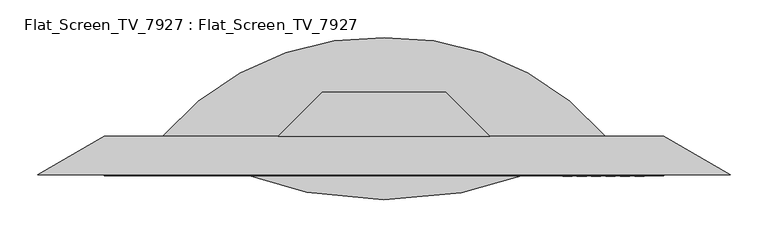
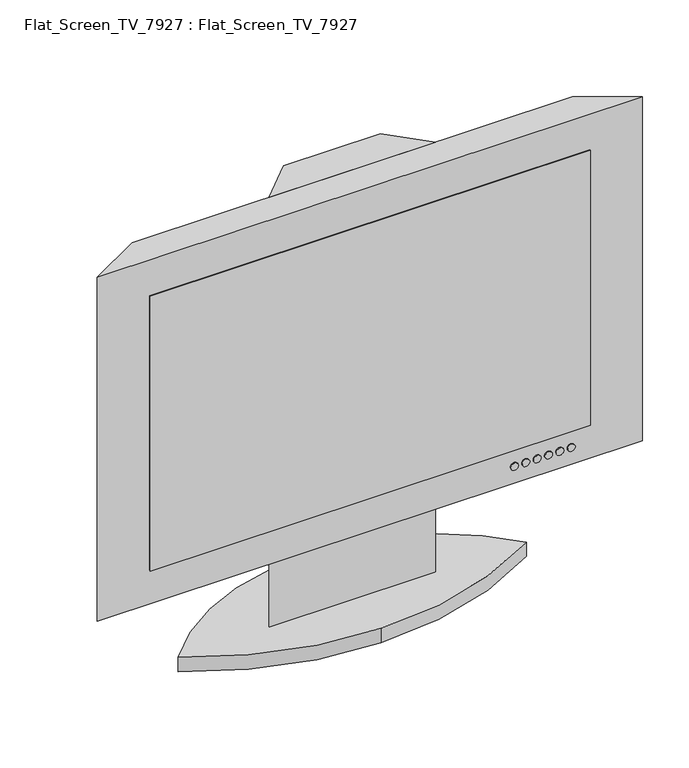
"""IFC4 building model written with IfcOpenShell, lengths in millimetres: proxy geometry, Flat_Screen_TV_7927 : Flat_Screen_TV_7927."""

from ifc_helpers import new_model, si_unit, point, frame, frame_2d, origin, origin_with_axes, place, context, project, spatial, polyline, circle_curve, trimmed, segment, composite_curve, outline, extrude, source, transform, mapped, element, save


def flat_screen_tv_7927_flat_screen_tv_7927_052adb82(model_context):
    return source(origin(), model_context, "Body", "SweptSolid", [
        extrude(outline(polyline([(59.5231777, 369.211819), (546.3883652, 369.211819), (546.3883652, -369.211819), (59.5231777, -369.211819), (59.5231777, 0.0), (59.5231777, 369.211819)])), frame((0.0, -1.5875, 0.0), z_axis=(0.0, 1.0, 0.0), x_axis=(0.0, 0.0, 1.0)), (0.0, 0.0, 1.0), 1.5875),
        extrude(outline(composite_curve([segment(trimmed(circle_curve(frame_2d((30.636959, 337.393326)), 6.35), [point((30.636959, 331.043326))], [point((30.636959, 343.743326))], False, "CARTESIAN"), True, "CONTINUOUS"), segment(trimmed(circle_curve(frame_2d((30.636959, 337.393326)), 6.35), [point((30.636959, 343.743326))], [point((30.636959, 331.043326))], False, "CARTESIAN"), True, "CONTINUOUS")], self_intersect=False)), frame((0.0, -1.5875, 0.0), z_axis=(0.0, 1.0, 0.0), x_axis=(0.0, 0.0, 1.0)), (0.0, 0.0, 1.0), 1.5875),
        extrude(outline(composite_curve([segment(trimmed(circle_curve(frame_2d((30.636959, 318.343326)), 6.35), [point((30.636959, 311.993326))], [point((30.636959, 324.693326))], False, "CARTESIAN"), True, "CONTINUOUS"), segment(trimmed(circle_curve(frame_2d((30.636959, 318.343326)), 6.35), [point((30.636959, 324.693326))], [point((30.636959, 311.993326))], False, "CARTESIAN"), True, "CONTINUOUS")], self_intersect=False)), frame((0.0, -1.5875, 0.0), z_axis=(0.0, 1.0, 0.0), x_axis=(0.0, 0.0, 1.0)), (0.0, 0.0, 1.0), 1.5875),
        extrude(outline(composite_curve([segment(trimmed(circle_curve(frame_2d((30.636959, 299.293326)), 6.35), [point((30.636959, 292.943326))], [point((30.636959, 305.643326))], False, "CARTESIAN"), True, "CONTINUOUS"), segment(trimmed(circle_curve(frame_2d((30.636959, 299.293326)), 6.35), [point((30.636959, 305.643326))], [point((30.636959, 292.943326))], False, "CARTESIAN"), True, "CONTINUOUS")], self_intersect=False)), frame((0.0, -1.5875, 0.0), z_axis=(0.0, 1.0, 0.0), x_axis=(0.0, 0.0, 1.0)), (0.0, 0.0, 1.0), 1.5875),
        extrude(outline(composite_curve([segment(trimmed(circle_curve(frame_2d((30.636959, 280.243326)), 6.35), [point((30.636959, 273.893326))], [point((30.636959, 286.593326))], False, "CARTESIAN"), True, "CONTINUOUS"), segment(trimmed(circle_curve(frame_2d((30.636959, 280.243326)), 6.35), [point((30.636959, 286.593326))], [point((30.636959, 273.893326))], False, "CARTESIAN"), True, "CONTINUOUS")], self_intersect=False)), frame((0.0, -1.5875, 0.0), z_axis=(0.0, 1.0, 0.0), x_axis=(0.0, 0.0, 1.0)), (0.0, 0.0, 1.0), 1.5875),
        extrude(outline(composite_curve([segment(trimmed(circle_curve(frame_2d((30.636959, 261.193326)), 6.35), [point((30.636959, 254.843326))], [point((30.636959, 267.543326))], False, "CARTESIAN"), True, "CONTINUOUS"), segment(trimmed(circle_curve(frame_2d((30.636959, 261.193326)), 6.35), [point((30.636959, 267.543326))], [point((30.636959, 254.843326))], False, "CARTESIAN"), True, "CONTINUOUS")], self_intersect=False)), frame((0.0, -1.5875, 0.0), z_axis=(0.0, 1.0, 0.0), x_axis=(0.0, 0.0, 1.0)), (0.0, 0.0, 1.0), 1.5875),
        extrude(outline(composite_curve([segment(trimmed(circle_curve(frame_2d((30.636959, 242.143326)), 6.35), [point((30.636959, 235.793326))], [point((30.636959, 248.493326))], False, "CARTESIAN"), True, "CONTINUOUS"), segment(trimmed(circle_curve(frame_2d((30.636959, 242.143326)), 6.35), [point((30.636959, 248.493326))], [point((30.636959, 235.793326))], False, "CARTESIAN"), True, "CONTINUOUS")], self_intersect=False)), frame((0.0, -1.5875, 0.0), z_axis=(0.0, 1.0, 0.0), x_axis=(0.0, 0.0, 1.0)), (0.0, 0.0, 1.0), 1.5875),
        extrude(outline(composite_curve([segment(trimmed(circle_curve(frame_2d((10.7512318, -188.0603594)), 369.0682873), [point((0.0, 180.851299))], [point((292.1, 50.8))], False, "CARTESIAN"), True, "CONTINUOUS"), segment(trimmed(circle_curve(frame_2d((2.9322743, 508.0316602)), 540.9979341), [point((292.1, 50.8))], [point((0.0, -32.9583272))], False, "CARTESIAN"), True, "CONTINUOUS"), segment(trimmed(circle_curve(frame_2d((3.0452646, 528.8778158)), 561.8443959), [point((0.0, -32.9583272))], [point((-292.1, 50.8))], False, "CARTESIAN"), True, "CONTINUOUS"), segment(trimmed(circle_curve(frame_2d((-10.7512318, -188.0603594)), 369.0682873), [point((-292.1, 50.8))], [point((0.0, 180.851299))], False, "CARTESIAN"), True, "CONTINUOUS")], self_intersect=False)), frame((0.0, 0.0, -177.8), z_axis=(0.0, 0.0, 1.0), x_axis=(1.0, 0.0, 0.0)), (0.0, 0.0, 1.0), 25.4),
        extrude(outline(polyline([(-81.3283352, 109.1716648), (81.3283352, 109.1716648), (139.7, 50.8), (-139.7, 50.8), (-81.3283352, 109.1716648)])), frame((0.0, 0.0, -152.4), z_axis=(0.0, 0.0, 1.0), x_axis=(1.0, 0.0, 0.0)), (0.0, 0.0, 1.0), 762.0),
        extrude(outline(polyline([(457.2, 0.0), (-457.2, 0.0), (-369.211819, 50.8), (369.211819, 50.8), (457.2, 0.0)])), origin_with_axes(), (0.0, 0.0, 1.0), 609.6),
    ])


if __name__ == "__main__":
    model = new_model("IFC4")
    model_context = context("Model", 3, world=origin())
    ifc_project = project(units=[si_unit("LENGTHUNIT", "METRE", prefix="MILLI")], contexts=[model_context])
    site = spatial("IfcSite", under=ifc_project)
    building = spatial("IfcBuilding", under=site)
    placement = place(None, origin())
    flat_screen_tv_7927_flat_screen_tv_7927_shape = flat_screen_tv_7927_flat_screen_tv_7927_052adb82(model_context)
    element("IfcBuildingElementProxy", 1, Name="Flat_Screen_TV_7927 : Flat_Screen_TV_7927", ObjectType="Flat_Screen_TV_7927 : Flat_Screen_TV_7927", at=placement, inside=building, context=model_context, shape_type="MappedRepresentation", body=[
        mapped(flat_screen_tv_7927_flat_screen_tv_7927_shape, transform((0.0, 0.0, 0.0), x_axis=(1.0, 0.0, 0.0), y_axis=(0.0, 1.0, 0.0), z_axis=(0.0, 0.0, 1.0))),
    ])
    save(model, "model.ifc")
